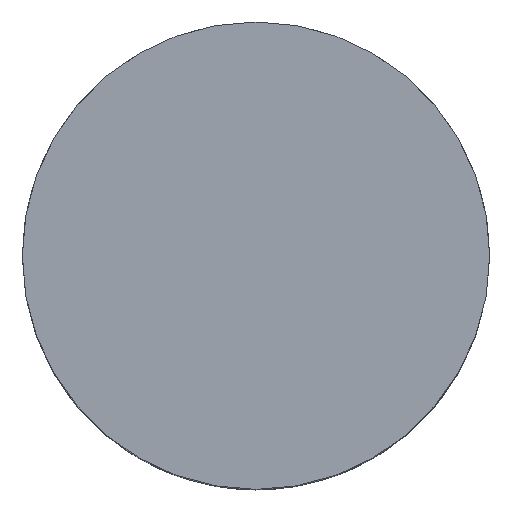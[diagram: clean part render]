
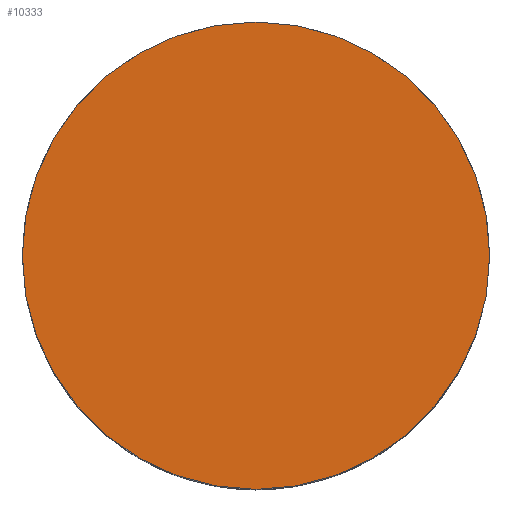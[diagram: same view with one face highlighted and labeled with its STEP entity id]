
A CAD part, top view. The second image highlights one B-rep face of the part: STEP entity #10333.
In plain terms, the highlighted planar face has unit normal (0, 0, 1).
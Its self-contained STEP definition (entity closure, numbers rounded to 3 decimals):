
#5826 = CARTESIAN_POINT ( 'NONE',  ( -29.3, 0., 43.2 ) ) ;
#5827 = CARTESIAN_POINT ( 'NONE',  ( 29.3, 0., 43.2 ) ) ;
#5828 = DIRECTION ( 'NONE',  ( 1., 0., 0. ) ) ;
#5829 = DIRECTION ( 'NONE',  ( 0., 0., 1. ) ) ;
#5830 = AXIS2_PLACEMENT_3D ( 'NONE', #5836, #5829, #5828 ) ;
#5831 = CIRCLE ( 'NONE', #5830, 29.3 ) ;
#5836 = CARTESIAN_POINT ( 'NONE',  ( 0., 0., 43.2 ) ) ;
#5980 = CARTESIAN_POINT ( 'NONE',  ( 0., 0., 43.2 ) ) ;
#6000 = DIRECTION ( 'NONE',  ( 1., 0., 0. ) ) ;
#6001 = DIRECTION ( 'NONE',  ( 0., 0., 1. ) ) ;
#6002 = AXIS2_PLACEMENT_3D ( 'NONE', #5980, #6001, #6000 ) ;
#6003 = CIRCLE ( 'NONE', #6002, 29.3 ) ;
#6117 = DIRECTION ( 'NONE',  ( 1., 0., 0. ) ) ;
#6118 = DIRECTION ( 'NONE',  ( 0., 0., 1. ) ) ;
#6119 = CARTESIAN_POINT ( 'NONE',  ( 0., 0., 43.2 ) ) ;
#6120 = AXIS2_PLACEMENT_3D ( 'NONE', #6119, #6118, #6117 ) ;
#6121 = PLANE ( 'NONE',  #6120 ) ;
#6122 = FACE_OUTER_BOUND ( 'NONE', #10275, .T. ) ;
#10196 = EDGE_CURVE ( 'NONE', #10197, #10198, #5831, .T. ) ;
#10197 = VERTEX_POINT ( 'NONE', #5827 ) ;
#10198 = VERTEX_POINT ( 'NONE', #5826 ) ;
#10271 = EDGE_CURVE ( 'NONE', #10198, #10197, #6003, .T. ) ;
#10275 = EDGE_LOOP ( 'NONE', ( #10334, #10335 ) ) ;
#10333 = ADVANCED_FACE ( 'NONE', ( #6122 ), #6121, .T. ) ;
#10334 = ORIENTED_EDGE ( 'NONE', *, *, #10271, .T. ) ;
#10335 = ORIENTED_EDGE ( 'NONE', *, *, #10196, .T. ) ;
